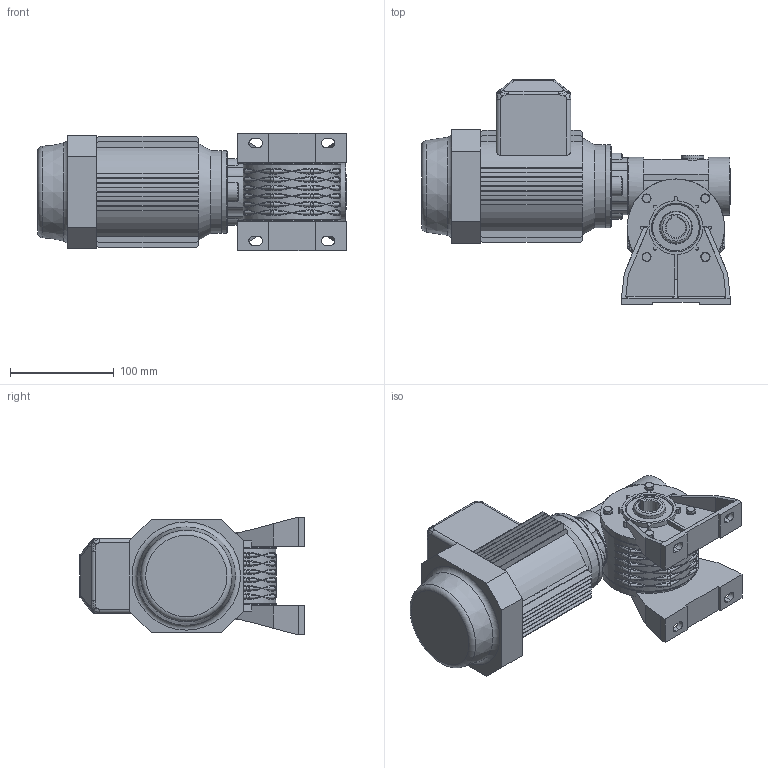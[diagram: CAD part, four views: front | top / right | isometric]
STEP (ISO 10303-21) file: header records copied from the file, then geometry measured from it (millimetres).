
FILE_DESCRIPTION((''),'2;1');
FILE_NAME('Y:\Archivi Inventor\Prog_01\GRAND_05\Figurini\MRV05 VECCHIO\56 B14\MRV05_PAM56B14_P2.stp','2014-01-14T11:02:38',('tech3'),(''),'Autodesk Inventor 2013','Autodesk Inventor 2013','');
FILE_SCHEMA(('AUTOMOTIVE_DESIGN { 1 0 10303 214 1 1 1 1 }'));
Length unit declared in the file: millimetre
Products named in the file (18): Assieme1; V05_PRIMARIO; 0100501-A1xfigurini; 0100529-A0; RCA_35x7; 0100528-A0; PARAOLIO 20x30x8; Guarnizione 3_8 GAS; UNI 6592 5.3 x 10; PARAOLIO 30x45x8; DIN EN 24 017  M5 x 16; Tappo 3_8 GAS_esagn_incsst; Corona MRV05 F=19 x figurini; UNI 5931  M 5 x  16; 0100510; DIN EN 24017 M5 x 16; 0100506; motori B14 56
Assembly tree (29 placements, depth 3):
  Assieme1
    V05_PRIMARIO
      0100501-A1xfigurini
      0100529-A0  x2
      RCA_35x7
      0100528-A0
      PARAOLIO 20x30x8
      Guarnizione 3_8 GAS
      UNI 6592 5.3 x 10
      PARAOLIO 30x45x8  x2
      DIN EN 24 017  M5 x 16  x4
      Tappo 3_8 GAS_esagn_incsst
      Corona MRV05 F=19 x figurini
      UNI 5931  M 5 x  16  x4
      0100510  x2
      DIN EN 24017 M5 x 16  x4
    0100506
    motori B14 56
Bounding box: 297.85 x 217 x 113.6 mm (x, y, z)
Volume: 2311956.2 mm3; surface area: 334523.2 mm2
Topology: 28 solids, 28 shells, 1284 faces, 3100 edges, 1935 vertices
Faces by surface type: plane 649, cylinder 342, cone 103, torus 94, bspline 92, sphere 4
Full cylindrical faces by diameter (mm): 4.134 x16, 5 x12, 5.3 x1, 5.5 x24, 5.75 x4, 6.88 x8, 8 x1, 8.5 x12, 9 x1, 10 x1, 14.95 x1, 16.3 x1, 16.5 x1, 22 x2, 23.105 x1, 28 x1, 30 x4, 30.8 x1, 34.105 x2, 35 x5, 42 x2, 45 x4, 50 x1, 55 x1, 56 x2, 63 x2, 70 x6, 80 x2, 93.5 x2, 94 x2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
Entity records: 58074 total; most frequent: CARTESIAN_POINT 34207, DIRECTION 4805, ORIENTED_EDGE 4634, EDGE_CURVE 2317, AXIS2_PLACEMENT_3D 1822, VERTEX_POINT 1524, EDGE_LOOP 1265, VECTOR 1161
